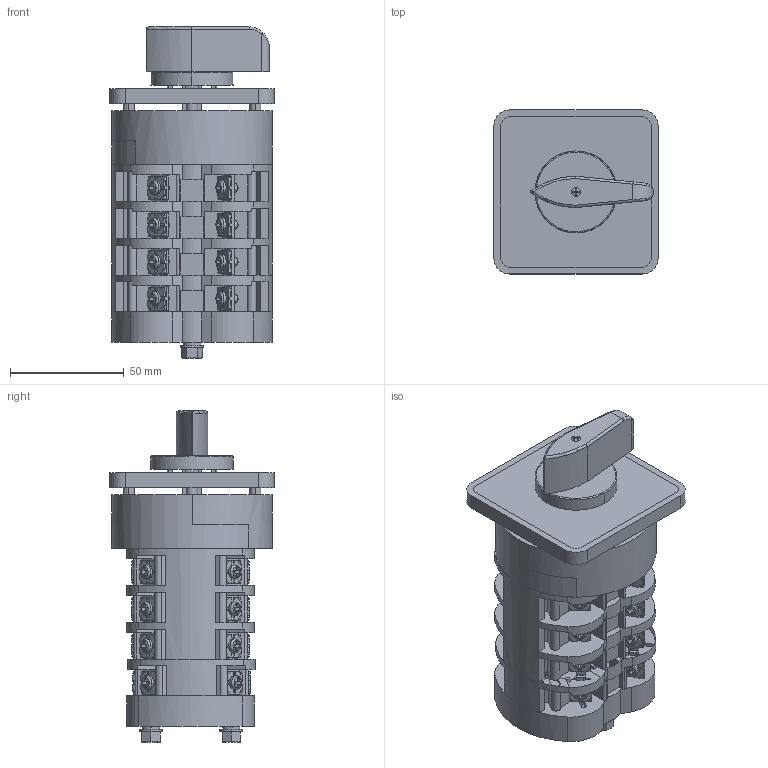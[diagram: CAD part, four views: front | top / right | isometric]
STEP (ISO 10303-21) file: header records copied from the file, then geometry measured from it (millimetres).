
FILE_DESCRIPTION((''),'2;1');
FILE_NAME('2470000100_SW0001','2025-04-08T',('sipei.wu'),(''),'PRO/ENGINEER BY PARAMETRIC TECHNOLOGY CORPORATION, 2015440','PRO/ENGINEER BY PARAMETRIC TECHNOLOGY CORPORATION, 2015440','');
FILE_SCHEMA(('CONFIG_CONTROL_DESIGN'));
Products named in the file (1): 2470000100_SW0001
Bounding box: 72 x 72 x 145.73 mm (x, y, z)
Volume: 313927.3 mm3; surface area: 103608.9 mm2
Topology: 1 solids, 17 shells, 3243 faces, 9179 edges, 5878 vertices
Faces by surface type: plane 2160, cylinder 852, cone 108, torus 84, sphere 34, bspline 5
Entity records: 107346 total; most frequent: CARTESIAN_POINT 21975, ORIENTED_EDGE 18358, DIRECTION 17484, EDGE_CURVE 9179, VECTOR 6284, LINE 6284, VERTEX_POINT 5878, AXIS2_PLACEMENT_3D 5600
